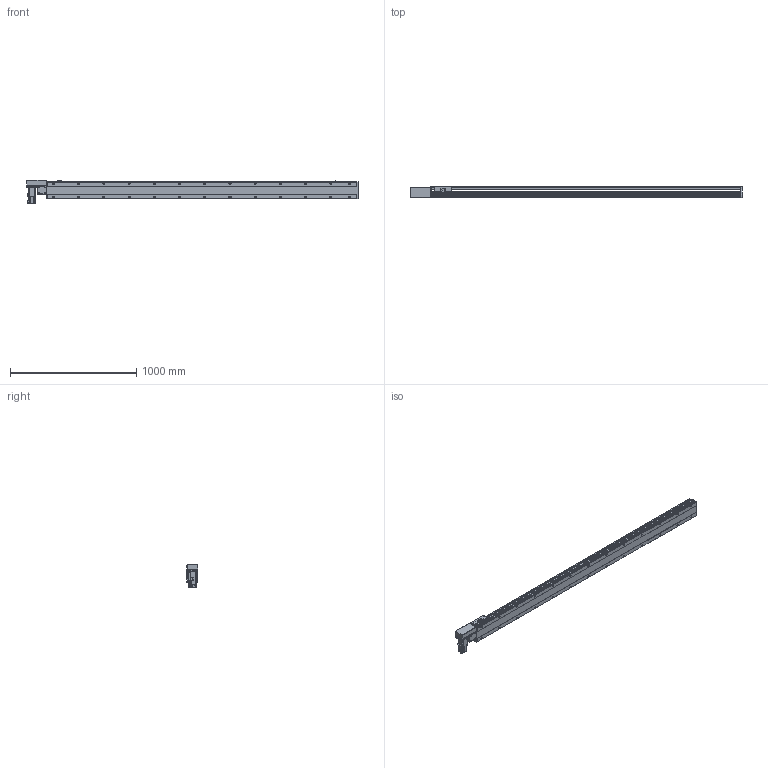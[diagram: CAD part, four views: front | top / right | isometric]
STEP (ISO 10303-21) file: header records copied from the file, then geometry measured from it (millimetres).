
FILE_DESCRIPTION(/* description */ ('STEP AP214'),/* implementation_level */ '2;1');
FILE_NAME(/* name */ 'PBS140S-P40-S2200-R-T40-C1-N(0)',/* time_stamp */ '2022-06-09T02:18:58+02:00',/* author */ ('License CC BY-ND 4.0'),/* organization */ ('CADENAS'),/* preprocessor_version */ 'ST-DEVELOPER v18.102',/* originating_system */ 'PARTsolutions',/* authorisation */ ' ');
FILE_SCHEMA (('AUTOMOTIVE_DESIGN {1 0 10303 214 3 1 1}'));
Length unit declared in the file: millimetre
Products named in the file (7): PBS140S-P40-S2200-R-T40-C1-N(0); PBS140S_sensor; PBS140S_plant; PBS140S_sliser; T40-p1; PBS140ST-R_motors; PBS140S-S2200()_body
Assembly tree (8 placements, depth 2):
  PBS140S-P40-S2200-R-T40-C1-N(0)
    PBS140S_sensor  x3
    PBS140S_plant
    PBS140S_sliser
    T40-p1
    PBS140ST-R_motors
    PBS140S-S2200()_body
Bounding box: 2633 x 93 x 189.7 mm (x, y, z)
Volume: 12504301.2 mm3; surface area: 2113137.5 mm2
Topology: 8 solids, 8 shells, 1179 faces, 3111 edges, 2035 vertices
Faces by surface type: plane 732, cylinder 385, cone 52, sphere 8, torus 2
Full cylindrical faces by diameter (mm): 3.242 x4, 4 x2, 4.134 x4, 4.4 x8, 4.5 x2, 4.8 x4, 4.917 x34, 5.5 x7, 6 x2, 7 x28, 7.5 x8, 8 x12, 8.5 x4, 10.5 x26, 14 x1, 30 x2, 50 x2
Entity records: 33786 total; most frequent: CARTESIAN_POINT 6376, DIRECTION 5698, ORIENTED_EDGE 5362, EDGE_CURVE 2681, AXIS2_PLACEMENT_3D 2009, VERTEX_POINT 1873, LINE 1680, VECTOR 1680
